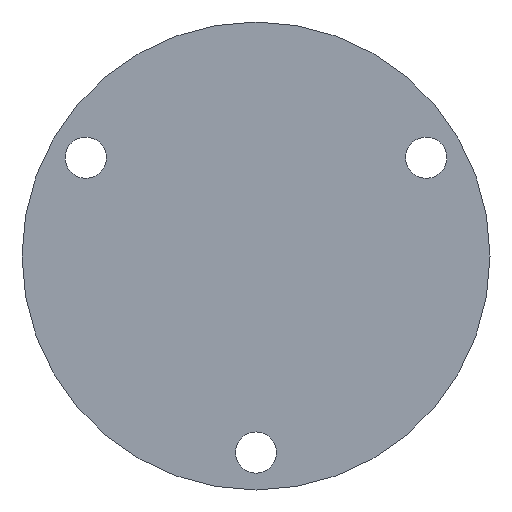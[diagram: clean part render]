
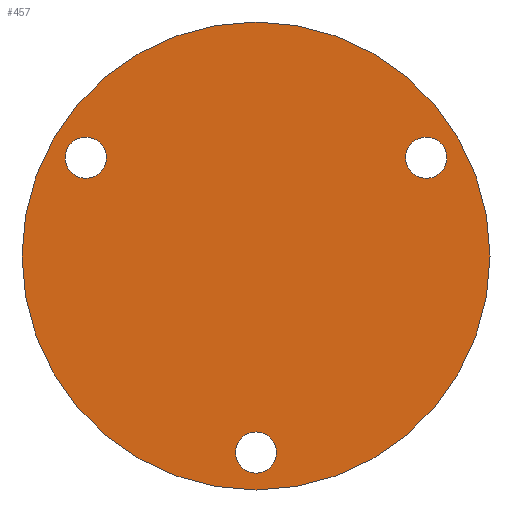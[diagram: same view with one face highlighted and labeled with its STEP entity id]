
A CAD part, front view. The second image highlights one B-rep face of the part: STEP entity #457.
In plain terms, the highlighted planar face has unit normal (0, -1, 0).
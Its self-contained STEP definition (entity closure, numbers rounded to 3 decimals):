
#1 = ORIENTED_EDGE ( 'NONE', *, *, #403, .T. ) ;
#2 = DIRECTION ( 'NONE',  ( 0., 0., -1. ) ) ;
#15 = EDGE_LOOP ( 'NONE', ( #311, #270 ) ) ;
#16 = FACE_BOUND ( 'NONE', #15, .T. ) ;
#21 = AXIS2_PLACEMENT_3D ( 'NONE', #404, #627, #127 ) ;
#34 = CIRCLE ( 'NONE', #315, 1.1 ) ;
#60 = EDGE_CURVE ( 'NONE', #417, #351, #382, .T. ) ;
#61 = DIRECTION ( 'NONE',  ( 0., 0., 1. ) ) ;
#69 = FACE_BOUND ( 'NONE', #697, .T. ) ;
#74 = CARTESIAN_POINT ( 'NONE',  ( 0., 0., -9.4 ) ) ;
#82 = DIRECTION ( 'NONE',  ( 0., 1., 0. ) ) ;
#104 = CIRCLE ( 'NONE', #497, 1.1 ) ;
#116 = CIRCLE ( 'NONE', #141, 12.5 ) ;
#125 = DIRECTION ( 'NONE',  ( 0., 0., -1. ) ) ;
#127 = DIRECTION ( 'NONE',  ( 0., 0., 1. ) ) ;
#137 = EDGE_LOOP ( 'NONE', ( #521, #606 ) ) ;
#138 = CARTESIAN_POINT ( 'NONE',  ( 0., 0., -10.5 ) ) ;
#141 = AXIS2_PLACEMENT_3D ( 'NONE', #358, #460, #125 ) ;
#149 = CARTESIAN_POINT ( 'NONE',  ( 0., 0., 12.5 ) ) ;
#173 = CARTESIAN_POINT ( 'NONE',  ( -9.093, 0., 4.15 ) ) ;
#179 = VERTEX_POINT ( 'NONE', #149 ) ;
#232 = FACE_BOUND ( 'NONE', #372, .T. ) ;
#235 = DIRECTION ( 'NONE',  ( 0., 1., 0. ) ) ;
#248 = DIRECTION ( 'NONE',  ( -0.866, 0., -0.5 ) ) ;
#251 = VERTEX_POINT ( 'NONE', #480 ) ;
#261 = CARTESIAN_POINT ( 'NONE',  ( 0., 0., -11.6 ) ) ;
#270 = ORIENTED_EDGE ( 'NONE', *, *, #557, .T. ) ;
#294 = ORIENTED_EDGE ( 'NONE', *, *, #60, .T. ) ;
#309 = DIRECTION ( 'NONE',  ( -0.866, 0., -0.5 ) ) ;
#311 = ORIENTED_EDGE ( 'NONE', *, *, #609, .T. ) ;
#315 = AXIS2_PLACEMENT_3D ( 'NONE', #412, #568, #61 ) ;
#317 = DIRECTION ( 'NONE',  ( 0., 1., 0. ) ) ;
#325 = CIRCLE ( 'NONE', #506, 12.5 ) ;
#333 = DIRECTION ( 'NONE',  ( 0., 1., 0. ) ) ;
#349 = CARTESIAN_POINT ( 'NONE',  ( 9.093, 0., 5.25 ) ) ;
#351 = VERTEX_POINT ( 'NONE', #559 ) ;
#352 = PLANE ( 'NONE',  #21 ) ;
#355 = CARTESIAN_POINT ( 'NONE',  ( -9.093, 0., 5.25 ) ) ;
#358 = CARTESIAN_POINT ( 'NONE',  ( 0., 0., 0. ) ) ;
#372 = EDGE_LOOP ( 'NONE', ( #586, #294 ) ) ;
#380 = CARTESIAN_POINT ( 'NONE',  ( -9.093, 0., 5.25 ) ) ;
#382 = CIRCLE ( 'NONE', #394, 1.1 ) ;
#394 = AXIS2_PLACEMENT_3D ( 'NONE', #380, #333, #666 ) ;
#403 = EDGE_CURVE ( 'NONE', #652, #251, #634, .T. ) ;
#404 = CARTESIAN_POINT ( 'NONE',  ( 0., 0., 0. ) ) ;
#407 = AXIS2_PLACEMENT_3D ( 'NONE', #138, #82, #584 ) ;
#412 = CARTESIAN_POINT ( 'NONE',  ( 0., 0., -10.5 ) ) ;
#417 = VERTEX_POINT ( 'NONE', #173 ) ;
#418 = DIRECTION ( 'NONE',  ( 0.866, 0., -0.5 ) ) ;
#426 = EDGE_CURVE ( 'NONE', #693, #179, #325, .T. ) ;
#431 = AXIS2_PLACEMENT_3D ( 'NONE', #355, #235, #418 ) ;
#457 = ADVANCED_FACE ( 'NONE', ( #232, #69, #16, #468 ), #352, .F. ) ;
#460 = DIRECTION ( 'NONE',  ( 0., -1., 0. ) ) ;
#468 = FACE_OUTER_BOUND ( 'NONE', #137, .T. ) ;
#475 = CARTESIAN_POINT ( 'NONE',  ( 9.093, 0., 5.25 ) ) ;
#479 = EDGE_CURVE ( 'NONE', #179, #693, #116, .T. ) ;
#480 = CARTESIAN_POINT ( 'NONE',  ( 9.093, 0., 4.15 ) ) ;
#497 = AXIS2_PLACEMENT_3D ( 'NONE', #475, #317, #309 ) ;
#506 = AXIS2_PLACEMENT_3D ( 'NONE', #630, #686, #2 ) ;
#521 = ORIENTED_EDGE ( 'NONE', *, *, #426, .T. ) ;
#530 = EDGE_CURVE ( 'NONE', #351, #417, #637, .T. ) ;
#557 = EDGE_CURVE ( 'NONE', #632, #614, #34, .T. ) ;
#559 = CARTESIAN_POINT ( 'NONE',  ( -9.093, 0., 6.35 ) ) ;
#568 = DIRECTION ( 'NONE',  ( 0., 1., 0. ) ) ;
#584 = DIRECTION ( 'NONE',  ( 0., 0., 1. ) ) ;
#586 = ORIENTED_EDGE ( 'NONE', *, *, #530, .T. ) ;
#598 = ORIENTED_EDGE ( 'NONE', *, *, #635, .T. ) ;
#606 = ORIENTED_EDGE ( 'NONE', *, *, #479, .T. ) ;
#609 = EDGE_CURVE ( 'NONE', #614, #632, #625, .T. ) ;
#614 = VERTEX_POINT ( 'NONE', #74 ) ;
#625 = CIRCLE ( 'NONE', #407, 1.1 ) ;
#627 = DIRECTION ( 'NONE',  ( 0., 1., 0. ) ) ;
#630 = CARTESIAN_POINT ( 'NONE',  ( 0., 0., 0. ) ) ;
#632 = VERTEX_POINT ( 'NONE', #261 ) ;
#634 = CIRCLE ( 'NONE', #699, 1.1 ) ;
#635 = EDGE_CURVE ( 'NONE', #251, #652, #104, .T. ) ;
#637 = CIRCLE ( 'NONE', #431, 1.1 ) ;
#652 = VERTEX_POINT ( 'NONE', #709 ) ;
#666 = DIRECTION ( 'NONE',  ( 0.866, 0., -0.5 ) ) ;
#682 = DIRECTION ( 'NONE',  ( 0., 1., 0. ) ) ;
#683 = CARTESIAN_POINT ( 'NONE',  ( 0., 0., -12.5 ) ) ;
#686 = DIRECTION ( 'NONE',  ( 0., -1., 0. ) ) ;
#693 = VERTEX_POINT ( 'NONE', #683 ) ;
#697 = EDGE_LOOP ( 'NONE', ( #1, #598 ) ) ;
#699 = AXIS2_PLACEMENT_3D ( 'NONE', #349, #682, #248 ) ;
#709 = CARTESIAN_POINT ( 'NONE',  ( 9.093, 0., 6.35 ) ) ;
